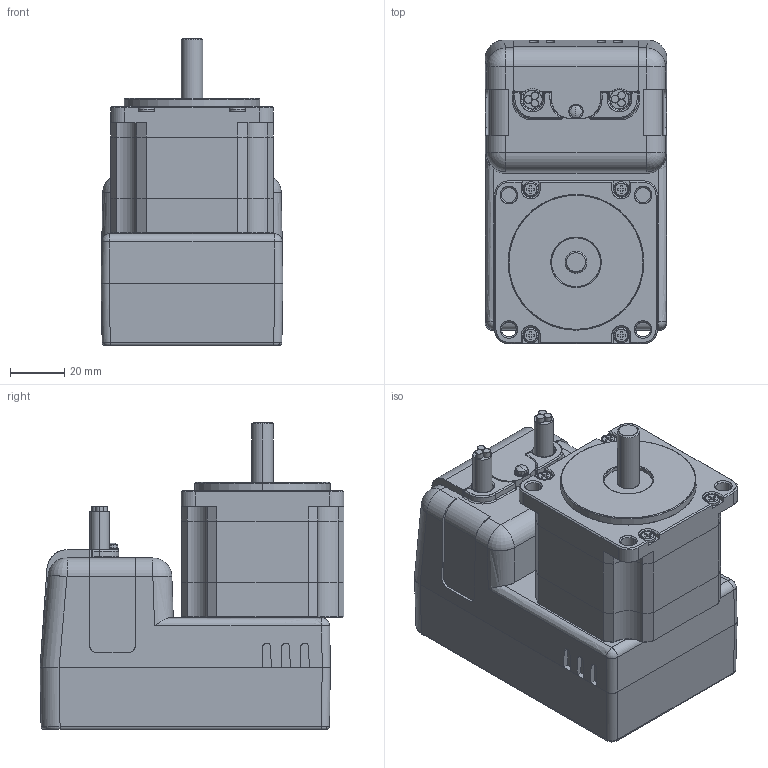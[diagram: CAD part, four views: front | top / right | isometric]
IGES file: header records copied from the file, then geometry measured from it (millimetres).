
Start section: SolidWorks IGES file using analytic representation for surfaces
Global section: file name: C:\Users\render\Desktop\CAD Archives\CM2-60A10A\CM2-60A10A.IGS; native system: SolidWorks 2009; preprocessor: SolidWorks 2009; author: render; date: 090722.132140; units: millimetre
Bounding box: 67 x 112 x 113.1 mm (x, y, z)
Surface area: 84916.8 mm2 (no closed solid volume)
Topology: 0 solids, 0 shells, 534 faces, 5578 edges, 5563 vertices
Faces by surface type: bspline 279, revolution 255
